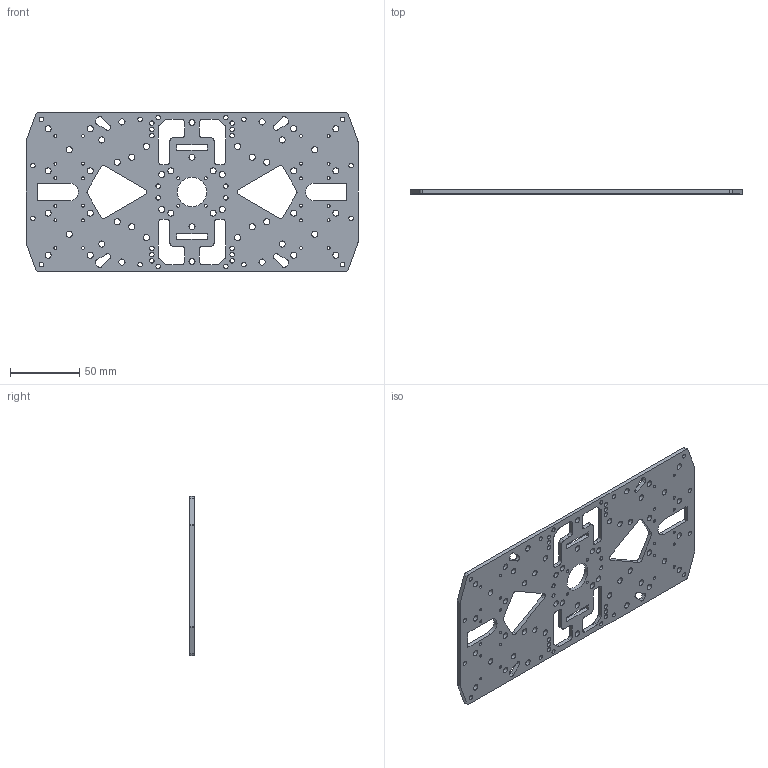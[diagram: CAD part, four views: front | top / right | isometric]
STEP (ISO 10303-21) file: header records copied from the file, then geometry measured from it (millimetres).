
FILE_DESCRIPTION(/* description */ ('STEP AP242','CAx-IF Rec.Pracs.---Representation and Presentation of Product Manufacturing Information (PMI)---4.0---2014-10-13','CAx-IF Rec.Pracs.---3D Tessellated Geometry---0.4---2014-09-14','2;1'),/* implementation_level */ '2;1');
FILE_NAME(/* name */ '679bb1155e1bcc04624b9e6e',/* time_stamp */ '2025-01-30T17:04:22Z',/* author */ (''),/* organization */ (''),/* preprocessor_version */ 'ST-DEVELOPER v20',/* originating_system */ 'ONSHAPE BY PTC INC, 1.192',/* authorisation */ ' ');
FILE_SCHEMA (('AP242_MANAGED_MODEL_BASED_3D_ENGINEERING_MIM_LF { 1 0 10303 442 1 1 4 }'));
Length unit declared in the file: metre
Products named in the file (1): Plaque_inf
Bounding box: 240 x 3 x 115 mm (x, y, z)
Volume: 63671.2 mm3; surface area: 51402.1 mm2
Topology: 1 solids, 1 shells, 244 faces, 726 edges, 484 vertices
Faces by surface type: cylinder 171, plane 73
Full cylindrical faces by diameter (mm): 2.1 x28, 3.2 x32, 4.4 x51, 21.134 x1
Entity records: 8322 total; most frequent: DIRECTION 1446, CARTESIAN_POINT 1343, ORIENTED_EDGE 1228, EDGE_CURVE 614, EDGE_LOOP 610, FACE_BOUND 610, AXIS2_PLACEMENT_3D 587, VERTEX_POINT 484
